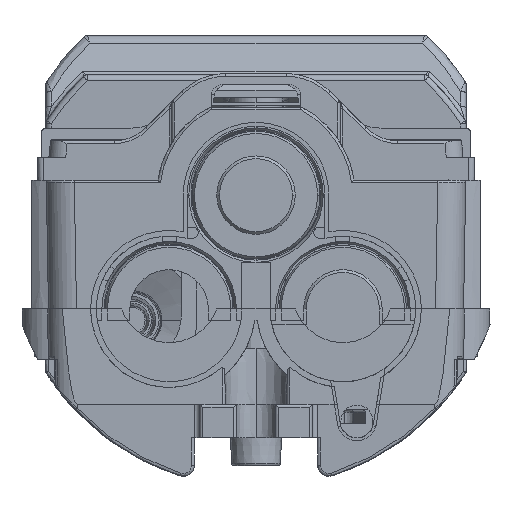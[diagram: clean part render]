
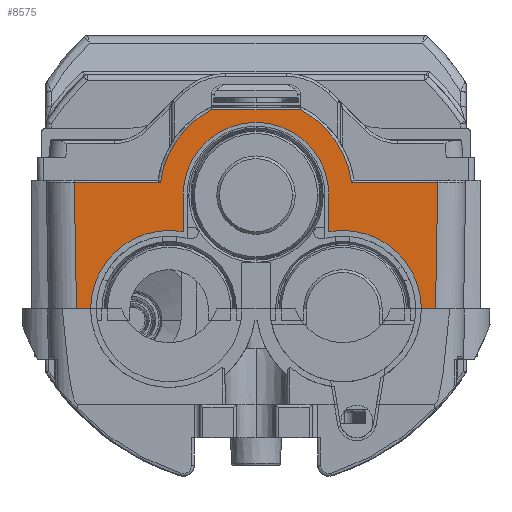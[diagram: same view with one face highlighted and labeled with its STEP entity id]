
A CAD part, left-side view. The second image highlights one B-rep face of the part: STEP entity #8575.
In plain terms, the highlighted planar face has unit normal (-1, 0, 0).
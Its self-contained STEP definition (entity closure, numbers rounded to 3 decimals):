
#157 = CARTESIAN_POINT ( 'NONE',  ( -325.383, -8.05, 69.5 ) ) ;
#160 = ORIENTED_EDGE ( 'NONE', *, *, #53687, .T. ) ;
#242 = DIRECTION ( 'NONE',  ( 0., -1., 0. ) ) ;
#1930 = VECTOR ( 'NONE', #25896, 1000. ) ;
#2373 = DIRECTION ( 'NONE',  ( 0., 1., 0. ) ) ;
#2894 = LINE ( 'NONE', #39682, #14288 ) ;
#3268 = LINE ( 'NONE', #45056, #46958 ) ;
#3273 = LINE ( 'NONE', #4833, #1930 ) ;
#3352 = VERTEX_POINT ( 'NONE', #36336 ) ;
#4738 = VECTOR ( 'NONE', #17101, 1000. ) ;
#4817 = EDGE_CURVE ( 'NONE', #20800, #29529, #22618, .T. ) ;
#4833 = CARTESIAN_POINT ( 'NONE',  ( -325.383, -32.74, 74.782 ) ) ;
#5567 = EDGE_CURVE ( 'NONE', #48007, #38847, #3268, .T. ) ;
#6106 = VECTOR ( 'NONE', #38119, 1000. ) ;
#6154 = DIRECTION ( 'NONE',  ( -1., 0., 0. ) ) ;
#6565 = CARTESIAN_POINT ( 'NONE',  ( -325.383, 37.029, 76. ) ) ;
#7288 = CARTESIAN_POINT ( 'NONE',  ( -325.383, -32.421, 56.5 ) ) ;
#8384 = CARTESIAN_POINT ( 'NONE',  ( -325.383, 13., 54.3 ) ) ;
#8575 = ADVANCED_FACE ( 'NONE', ( #48370 ), #35728, .F. ) ;
#9233 = LINE ( 'NONE', #15094, #19152 ) ;
#9928 = VERTEX_POINT ( 'NONE', #21653 ) ;
#10031 = VERTEX_POINT ( 'NONE', #51712 ) ;
#10440 = CARTESIAN_POINT ( 'NONE',  ( -325.383, 13., 47.775 ) ) ;
#10853 = DIRECTION ( 'NONE',  ( 1., 0., 0. ) ) ;
#11373 = VERTEX_POINT ( 'NONE', #157 ) ;
#11579 = ORIENTED_EDGE ( 'NONE', *, *, #32089, .F. ) ;
#11789 = VERTEX_POINT ( 'NONE', #28707 ) ;
#12701 = ORIENTED_EDGE ( 'NONE', *, *, #16191, .F. ) ;
#12877 = CARTESIAN_POINT ( 'NONE',  ( -325.383, 37.029, 56.5 ) ) ;
#12938 = AXIS2_PLACEMENT_3D ( 'NONE', #50992, #25709, #242 ) ;
#12956 = CARTESIAN_POINT ( 'NONE',  ( -325.383, 32.421, 56.5 ) ) ;
#12961 = ORIENTED_EDGE ( 'NONE', *, *, #5567, .T. ) ;
#13434 = ORIENTED_EDGE ( 'NONE', *, *, #15474, .T. ) ;
#13712 = VERTEX_POINT ( 'NONE', #15950 ) ;
#14288 = VECTOR ( 'NONE', #31120, 1000. ) ;
#14805 = LINE ( 'NONE', #21616, #25957 ) ;
#15094 = CARTESIAN_POINT ( 'NONE',  ( -325.383, 37.029, 69.5 ) ) ;
#15474 = EDGE_CURVE ( 'NONE', #9928, #3352, #51132, .T. ) ;
#15661 = DIRECTION ( 'NONE',  ( 0., 0., 1. ) ) ;
#15795 = AXIS2_PLACEMENT_3D ( 'NONE', #20655, #50178, #24892 ) ;
#15950 = CARTESIAN_POINT ( 'NONE',  ( -325.383, -13., 54.3 ) ) ;
#16069 = ORIENTED_EDGE ( 'NONE', *, *, #35248, .T. ) ;
#16191 = EDGE_CURVE ( 'NONE', #10031, #20800, #29853, .T. ) ;
#16197 = EDGE_CURVE ( 'NONE', #41054, #11789, #27195, .T. ) ;
#17101 = DIRECTION ( 'NONE',  ( 0., 1., 0. ) ) ;
#17145 = DIRECTION ( 'NONE',  ( -1., 0., 0. ) ) ;
#17787 = AXIS2_PLACEMENT_3D ( 'NONE', #6565, #10853, #40377 ) ;
#18266 = EDGE_CURVE ( 'NONE', #11373, #9928, #9233, .T. ) ;
#19152 = VECTOR ( 'NONE', #2373, 1000. ) ;
#19256 = CARTESIAN_POINT ( 'NONE',  ( -325.383, 0., 54.3 ) ) ;
#20018 = ORIENTED_EDGE ( 'NONE', *, *, #53989, .T. ) ;
#20655 = CARTESIAN_POINT ( 'NONE',  ( -325.383, 0., 54.3 ) ) ;
#20800 = VERTEX_POINT ( 'NONE', #10440 ) ;
#20850 = LINE ( 'NONE', #45338, #42001 ) ;
#21616 = CARTESIAN_POINT ( 'NONE',  ( -325.383, 37.029, 34. ) ) ;
#21653 = CARTESIAN_POINT ( 'NONE',  ( -325.383, 8.05, 69.5 ) ) ;
#21814 = ORIENTED_EDGE ( 'NONE', *, *, #18266, .T. ) ;
#22618 = CIRCLE ( 'NONE', #47351, 14. ) ;
#23230 = CARTESIAN_POINT ( 'NONE',  ( -325.383, -13., 47.775 ) ) ;
#23503 = DIRECTION ( 'NONE',  ( 0., -1., 0. ) ) ;
#24892 = DIRECTION ( 'NONE',  ( 0., 0., -1. ) ) ;
#25709 = DIRECTION ( 'NONE',  ( -1., 0., 0. ) ) ;
#25896 = DIRECTION ( 'NONE',  ( 0., -0.017, 1. ) ) ;
#25957 = VECTOR ( 'NONE', #51133, 1000. ) ;
#26817 = VECTOR ( 'NONE', #40383, 1000. ) ;
#27195 = LINE ( 'NONE', #12877, #4738 ) ;
#27374 = VERTEX_POINT ( 'NONE', #23230 ) ;
#27956 = CIRCLE ( 'NONE', #47246, 17.2 ) ;
#28438 = VERTEX_POINT ( 'NONE', #12956 ) ;
#28511 = EDGE_CURVE ( 'NONE', #28438, #44028, #2894, .T. ) ;
#28707 = CARTESIAN_POINT ( 'NONE',  ( -325.383, -17.059, 56.5 ) ) ;
#29101 = CIRCLE ( 'NONE', #43542, 13. ) ;
#29473 = LINE ( 'NONE', #40726, #26817 ) ;
#29529 = VERTEX_POINT ( 'NONE', #42869 ) ;
#29853 = LINE ( 'NONE', #8384, #6106 ) ;
#31120 = DIRECTION ( 'NONE',  ( 0., -0.017, -1. ) ) ;
#31372 = ORIENTED_EDGE ( 'NONE', *, *, #41322, .T. ) ;
#31417 = CARTESIAN_POINT ( 'NONE',  ( -325.383, 0., 54.3 ) ) ;
#32089 = EDGE_CURVE ( 'NONE', #13712, #10031, #29101, .T. ) ;
#32503 = DIRECTION ( 'NONE',  ( 0., -1., 0. ) ) ;
#33135 = CARTESIAN_POINT ( 'NONE',  ( -325.383, -32.028, 34. ) ) ;
#35248 = EDGE_CURVE ( 'NONE', #3352, #28438, #29473, .T. ) ;
#35695 = DIRECTION ( 'NONE',  ( 0., 0., -1. ) ) ;
#35728 = PLANE ( 'NONE',  #17787 ) ;
#36336 = CARTESIAN_POINT ( 'NONE',  ( -325.383, 17.059, 56.5 ) ) ;
#38119 = DIRECTION ( 'NONE',  ( 0., 0., -1. ) ) ;
#38343 = CARTESIAN_POINT ( 'NONE',  ( -325.383, -29.5, 34. ) ) ;
#38847 = VERTEX_POINT ( 'NONE', #33135 ) ;
#39682 = CARTESIAN_POINT ( 'NONE',  ( -325.383, 32.762, 76.074 ) ) ;
#40377 = DIRECTION ( 'NONE',  ( 0., 0., -1. ) ) ;
#40383 = DIRECTION ( 'NONE',  ( 0., 1., 0. ) ) ;
#40407 = CARTESIAN_POINT ( 'NONE',  ( -325.383, 32.028, 34. ) ) ;
#40645 = ORIENTED_EDGE ( 'NONE', *, *, #46233, .F. ) ;
#40726 = CARTESIAN_POINT ( 'NONE',  ( -325.383, 37.029, 56.5 ) ) ;
#41054 = VERTEX_POINT ( 'NONE', #7288 ) ;
#41322 = EDGE_CURVE ( 'NONE', #38847, #41054, #3273, .T. ) ;
#42001 = VECTOR ( 'NONE', #15661, 1000. ) ;
#42415 = CARTESIAN_POINT ( 'NONE',  ( -325.383, 15.5, 34. ) ) ;
#42869 = CARTESIAN_POINT ( 'NONE',  ( -325.383, 29.5, 34. ) ) ;
#43542 = AXIS2_PLACEMENT_3D ( 'NONE', #19256, #48778, #23503 ) ;
#44028 = VERTEX_POINT ( 'NONE', #40407 ) ;
#45056 = CARTESIAN_POINT ( 'NONE',  ( -325.383, 37.029, 34. ) ) ;
#45338 = CARTESIAN_POINT ( 'NONE',  ( -325.383, -13., 54.3 ) ) ;
#46233 = EDGE_CURVE ( 'NONE', #27374, #13712, #20850, .T. ) ;
#46627 = DIRECTION ( 'NONE',  ( 0., -1., 0. ) ) ;
#46958 = VECTOR ( 'NONE', #32503, 1000. ) ;
#47023 = ORIENTED_EDGE ( 'NONE', *, *, #4817, .F. ) ;
#47246 = AXIS2_PLACEMENT_3D ( 'NONE', #31417, #6154, #35695 ) ;
#47351 = AXIS2_PLACEMENT_3D ( 'NONE', #42415, #17145, #46627 ) ;
#47936 = CIRCLE ( 'NONE', #12938, 14. ) ;
#48007 = VERTEX_POINT ( 'NONE', #38343 ) ;
#48370 = FACE_OUTER_BOUND ( 'NONE', #50425, .T. ) ;
#48778 = DIRECTION ( 'NONE',  ( -1., 0., 0. ) ) ;
#49610 = ORIENTED_EDGE ( 'NONE', *, *, #28511, .T. ) ;
#50178 = DIRECTION ( 'NONE',  ( -1., 0., 0. ) ) ;
#50425 = EDGE_LOOP ( 'NONE', ( #13434, #16069, #49610, #20018, #47023, #12701, #11579, #40645, #51821, #12961, #31372, #51186, #160, #21814 ) ) ;
#50992 = CARTESIAN_POINT ( 'NONE',  ( -325.383, -15.5, 34. ) ) ;
#51132 = CIRCLE ( 'NONE', #15795, 17.2 ) ;
#51133 = DIRECTION ( 'NONE',  ( 0., -1., 0. ) ) ;
#51186 = ORIENTED_EDGE ( 'NONE', *, *, #16197, .T. ) ;
#51712 = CARTESIAN_POINT ( 'NONE',  ( -325.383, 13., 54.3 ) ) ;
#51821 = ORIENTED_EDGE ( 'NONE', *, *, #51888, .F. ) ;
#51888 = EDGE_CURVE ( 'NONE', #48007, #27374, #47936, .T. ) ;
#53687 = EDGE_CURVE ( 'NONE', #11789, #11373, #27956, .T. ) ;
#53989 = EDGE_CURVE ( 'NONE', #44028, #29529, #14805, .T. ) ;
